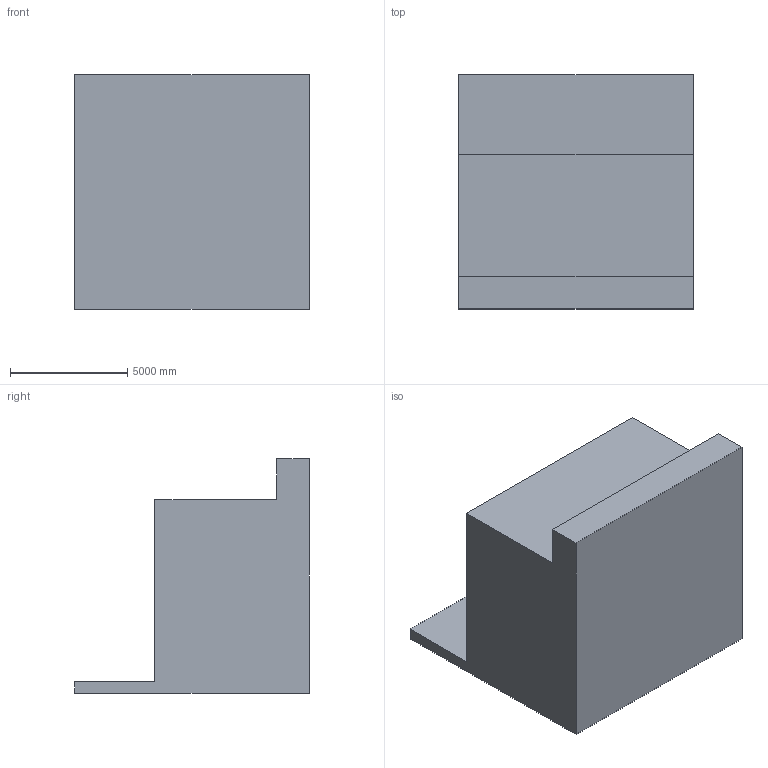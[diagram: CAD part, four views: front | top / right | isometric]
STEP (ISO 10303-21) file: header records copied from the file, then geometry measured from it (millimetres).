
FILE_DESCRIPTION (( 'STEP AP203' ), '1' );
FILE_NAME ('97.STEP', '2022-07-28T13:36:29', ( 'user' ), ( '' ), 'SwSTEP 2.0', 'SolidWorks 2021', '' );
FILE_SCHEMA (( 'CONFIG_CONTROL_DESIGN' ));
Length unit declared in the file: centimetre
Products named in the file (1): 97
Bounding box: 10000 x 10000 x 10000 mm (x, y, z)
Volume: 584708044092.2 mm3; surface area: 516941608.8 mm2
Topology: 1 solids, 1 shells, 10 faces, 24 edges, 16 vertices
Faces by surface type: plane 10
Entity records: 365 total; most frequent: CARTESIAN_POINT 51, ORIENTED_EDGE 48, DIRECTION 46, EDGE_CURVE 24, LINE 24, VECTOR 24, VERTEX_POINT 16, AXIS2_PLACEMENT_3D 11
